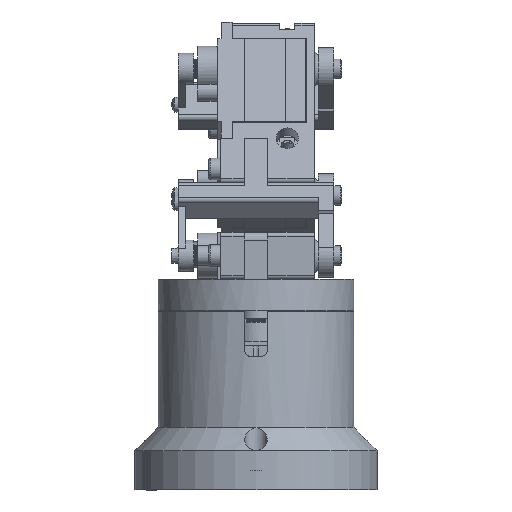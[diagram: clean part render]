
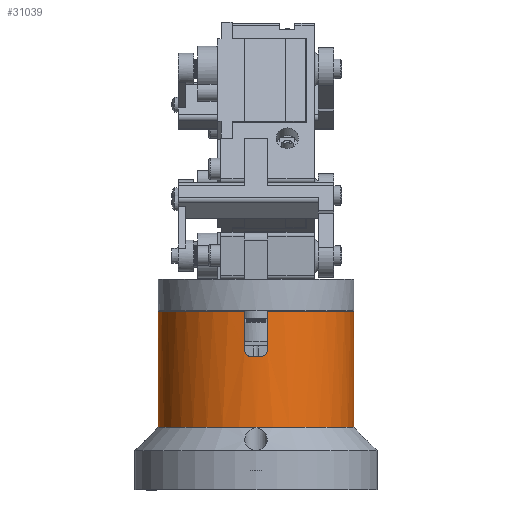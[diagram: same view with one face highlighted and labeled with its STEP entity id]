
A CAD part, left-side view. The second image highlights one B-rep face of the part: STEP entity #31039.
In plain terms, the highlighted cylindrical face has radius 25 mm (diameter 50 mm), a full revolution.
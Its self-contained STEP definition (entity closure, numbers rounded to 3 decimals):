
#358=B_SPLINE_CURVE_WITH_KNOTS('',3,(#46202,#46203,#46204,#46205,#46206,
#46207,#46208,#46209,#46210,#46211),.UNSPECIFIED.,.F.,.F.,(4,2,2,2,4),(-0.302,
-0.226,-0.151,-0.075,0.),
 .UNSPECIFIED.);
#361=B_SPLINE_CURVE_WITH_KNOTS('',3,(#46248,#46249,#46250,#46251,#46252,
#46253,#46254,#46255,#46256,#46257),.UNSPECIFIED.,.F.,.F.,(4,2,2,2,4),(0.,
0.075,0.151,0.226,0.302),
 .UNSPECIFIED.);
#3086=FACE_OUTER_BOUND('',#4648,.T.);
#4648=EDGE_LOOP('',(#23595,#23596,#23597,#23598,#23599,#23600,#23601,#23602,
#23603,#23604,#23605));
#6937=LINE('',#46228,#9930);
#6944=LINE('',#46264,#9937);
#6957=LINE('',#46298,#9950);
#9930=VECTOR('',#37883,10.);
#9937=VECTOR('',#37894,10.);
#9950=VECTOR('',#37919,25.);
#12131=CIRCLE('',#33482,25.);
#12132=CIRCLE('',#33483,25.);
#12139=CIRCLE('',#33501,25.);
#12140=CIRCLE('',#33502,25.);
#12141=CIRCLE('',#33503,25.);
#13700=VERTEX_POINT('',#46132);
#13701=VERTEX_POINT('',#46134);
#13708=VERTEX_POINT('',#46200);
#13709=VERTEX_POINT('',#46201);
#13712=VERTEX_POINT('',#46227);
#13716=VERTEX_POINT('',#46245);
#13717=VERTEX_POINT('',#46247);
#13719=VERTEX_POINT('',#46262);
#13734=VERTEX_POINT('',#46297);
#17511=EDGE_CURVE('',#13700,#13701,#12131,.T.);
#17512=EDGE_CURVE('',#13701,#13700,#12132,.T.);
#17522=EDGE_CURVE('',#13708,#13709,#358,.T.);
#17526=EDGE_CURVE('',#13709,#13712,#6937,.T.);
#17531=EDGE_CURVE('',#13716,#13717,#361,.T.);
#17535=EDGE_CURVE('',#13716,#13719,#6944,.T.);
#17551=EDGE_CURVE('',#13701,#13734,#6957,.T.);
#17552=EDGE_CURVE('',#13712,#13734,#12139,.T.);
#17553=EDGE_CURVE('',#13708,#13717,#12140,.T.);
#17554=EDGE_CURVE('',#13734,#13719,#12141,.T.);
#23595=ORIENTED_EDGE('',*,*,#17511,.F.);
#23596=ORIENTED_EDGE('',*,*,#17512,.F.);
#23597=ORIENTED_EDGE('',*,*,#17551,.T.);
#23598=ORIENTED_EDGE('',*,*,#17552,.F.);
#23599=ORIENTED_EDGE('',*,*,#17526,.F.);
#23600=ORIENTED_EDGE('',*,*,#17522,.F.);
#23601=ORIENTED_EDGE('',*,*,#17553,.T.);
#23602=ORIENTED_EDGE('',*,*,#17531,.F.);
#23603=ORIENTED_EDGE('',*,*,#17535,.T.);
#23604=ORIENTED_EDGE('',*,*,#17554,.F.);
#23605=ORIENTED_EDGE('',*,*,#17551,.F.);
#30270=CYLINDRICAL_SURFACE('',#33500,25.);
#31039=ADVANCED_FACE('',(#3086),#30270,.T.);
#33482=AXIS2_PLACEMENT_3D('',#46135,#37857,#37858);
#33483=AXIS2_PLACEMENT_3D('',#46136,#37859,#37860);
#33500=AXIS2_PLACEMENT_3D('',#46296,#37917,#37918);
#33501=AXIS2_PLACEMENT_3D('',#46299,#37920,#37921);
#33502=AXIS2_PLACEMENT_3D('',#46300,#37922,#37923);
#33503=AXIS2_PLACEMENT_3D('',#46301,#37924,#37925);
#37857=DIRECTION('center_axis',(0.,0.,1.));
#37858=DIRECTION('ref_axis',(-1.,0.,0.));
#37859=DIRECTION('center_axis',(0.,0.,1.));
#37860=DIRECTION('ref_axis',(-1.,0.,0.));
#37883=DIRECTION('',(0.,0.,-1.));
#37894=DIRECTION('',(0.,0.,-1.));
#37917=DIRECTION('center_axis',(0.,0.,1.));
#37918=DIRECTION('ref_axis',(1.,0.,0.));
#37919=DIRECTION('',(0.,0.,-1.));
#37920=DIRECTION('center_axis',(0.,0.,-1.));
#37921=DIRECTION('ref_axis',(0.993,-0.12,0.));
#37922=DIRECTION('center_axis',(0.,0.,1.));
#37923=DIRECTION('ref_axis',(1.,0.,0.));
#37924=DIRECTION('center_axis',(0.,0.,-1.));
#37925=DIRECTION('ref_axis',(0.993,-0.12,0.));
#46132=CARTESIAN_POINT('',(30.65,0.,18.));
#46134=CARTESIAN_POINT('',(-19.35,0.,18.));
#46135=CARTESIAN_POINT('Origin',(5.65,0.,
18.));
#46136=CARTESIAN_POINT('Origin',(5.65,0.,
18.));
#46200=CARTESIAN_POINT('',(30.63,-1.,0.));
#46201=CARTESIAN_POINT('',(30.469,-3.,-2.));
#46202=CARTESIAN_POINT('Ctrl Pts',(30.63,-1.,0.));
#46203=CARTESIAN_POINT('Ctrl Pts',(30.62,-1.252,0.));
#46204=CARTESIAN_POINT('Ctrl Pts',(30.605,-1.52,-0.05));
#46205=CARTESIAN_POINT('Ctrl Pts',(30.57,-2.013,-0.255));
#46206=CARTESIAN_POINT('Ctrl Pts',(30.55,-2.237,-0.409));
#46207=CARTESIAN_POINT('Ctrl Pts',(30.516,-2.592,-0.764));
#46208=CARTESIAN_POINT('Ctrl Pts',(30.499,-2.746,-0.988));
#46209=CARTESIAN_POINT('Ctrl Pts',(30.476,-2.95,-1.481));
#46210=CARTESIAN_POINT('Ctrl Pts',(30.469,-3.,-1.749));
#46211=CARTESIAN_POINT('Ctrl Pts',(30.469,-3.,-2.));
#46227=CARTESIAN_POINT('',(30.469,-3.,-11.5));
#46228=CARTESIAN_POINT('',(30.469,-3.,0.));
#46245=CARTESIAN_POINT('',(30.469,3.,-2.));
#46247=CARTESIAN_POINT('',(30.63,1.,0.));
#46248=CARTESIAN_POINT('Ctrl Pts',(30.469,3.,-2.));
#46249=CARTESIAN_POINT('Ctrl Pts',(30.469,3.,-1.749));
#46250=CARTESIAN_POINT('Ctrl Pts',(30.476,2.95,-1.481));
#46251=CARTESIAN_POINT('Ctrl Pts',(30.499,2.746,-0.988));
#46252=CARTESIAN_POINT('Ctrl Pts',(30.516,2.592,-0.764));
#46253=CARTESIAN_POINT('Ctrl Pts',(30.55,2.237,-0.409));
#46254=CARTESIAN_POINT('Ctrl Pts',(30.57,2.013,-0.255));
#46255=CARTESIAN_POINT('Ctrl Pts',(30.605,1.52,-0.05));
#46256=CARTESIAN_POINT('Ctrl Pts',(30.62,1.252,0.));
#46257=CARTESIAN_POINT('Ctrl Pts',(30.63,1.,0.));
#46262=CARTESIAN_POINT('',(30.469,3.,-11.5));
#46264=CARTESIAN_POINT('',(30.469,3.,0.));
#46296=CARTESIAN_POINT('Origin',(5.65,0.,
0.));
#46297=CARTESIAN_POINT('',(-19.35,0.,-11.5));
#46298=CARTESIAN_POINT('',(-19.35,0.,0.));
#46299=CARTESIAN_POINT('Origin',(5.65,0.,
-11.5));
#46300=CARTESIAN_POINT('Origin',(5.65,0.,
0.));
#46301=CARTESIAN_POINT('Origin',(5.65,0.,
-11.5));
